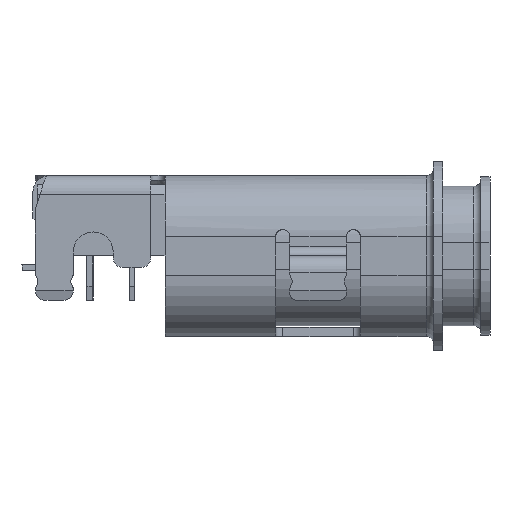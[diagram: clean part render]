
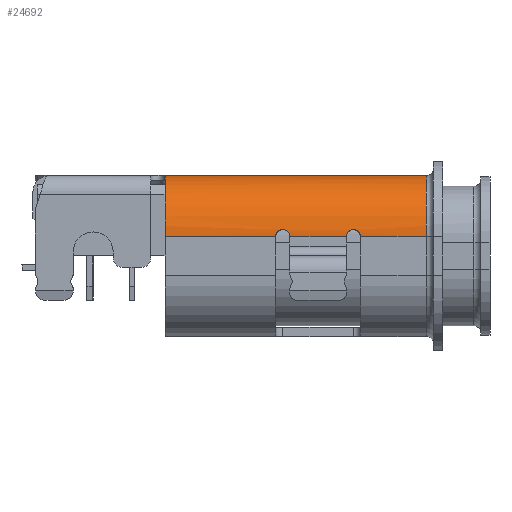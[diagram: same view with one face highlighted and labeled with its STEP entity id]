
A CAD part, left-side view. The second image highlights one B-rep face of the part: STEP entity #24692.
In plain terms, the highlighted cylindrical face has radius 1.3 mm (diameter 2.6 mm), a partial arc.
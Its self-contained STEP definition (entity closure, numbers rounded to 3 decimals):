
#1952=CARTESIAN_POINT('',(-27.077,12.736,5.946));
#1953=DIRECTION('',(0.,-1.,0.));
#1954=DIRECTION('',(-0.533,0.,0.846));
#1955=AXIS2_PLACEMENT_3D('',#1952,#1953,#1954);
#2758=CARTESIAN_POINT('',(-27.077,12.736,5.946));
#2759=DIRECTION('',(0.,-1.,0.));
#2760=DIRECTION('',(0.,0.,1.));
#2761=AXIS2_PLACEMENT_3D('',#2758,#2759,#2760);
#2763=CARTESIAN_POINT('',(-27.077,12.736,5.946));
#2764=DIRECTION('',(0.,-1.,0.));
#2765=DIRECTION('',(-0.769,0.,0.639));
#2766=AXIS2_PLACEMENT_3D('',#2763,#2764,#2765);
#5734=CARTESIAN_POINT('',(-27.077,7.186,5.946));
#5735=DIRECTION('',(0.,-1.,0.));
#5736=DIRECTION('',(0.,0.,1.));
#5737=AXIS2_PLACEMENT_3D('',#5734,#5735,#5736);
#5749=DIRECTION('',(0.,-1.,0.));
#5750=VECTOR('',#5749,5.55);
#5751=CARTESIAN_POINT('',(-27.077,12.736,7.246));
#5752=LINE('',#5751,#5750);
#5753=DIRECTION('',(0.,1.,0.));
#5754=VECTOR('',#5753,1.4);
#5755=CARTESIAN_POINT('',(-28.377,7.186,5.946));
#5756=LINE('',#5755,#5754);
#5757=CARTESIAN_POINT('',(-28.377,8.586,5.946));
#5758=CARTESIAN_POINT('',(-28.377,8.586,5.964));
#5759=CARTESIAN_POINT('',(-28.376,8.592,5.997));
#5760=CARTESIAN_POINT('',(-28.373,8.618,6.044));
#5761=CARTESIAN_POINT('',(-28.37,8.659,6.079));
#5762=CARTESIAN_POINT('',(-28.368,8.709,6.097));
#5763=CARTESIAN_POINT('',(-28.368,8.763,6.097));
#5764=CARTESIAN_POINT('',(-28.37,8.813,6.079));
#5765=CARTESIAN_POINT('',(-28.373,8.854,6.044));
#5766=CARTESIAN_POINT('',(-28.376,8.88,5.997));
#5767=CARTESIAN_POINT('',(-28.377,8.886,5.964));
#5768=CARTESIAN_POINT('',(-28.377,8.886,5.946));
#5770=DIRECTION('',(0.,1.,0.));
#5771=VECTOR('',#5770,1.2);
#5772=CARTESIAN_POINT('',(-28.377,8.886,5.946));
#5773=LINE('',#5772,#5771);
#5774=CARTESIAN_POINT('',(-28.377,10.086,5.946));
#5775=CARTESIAN_POINT('',(-28.377,10.086,5.964));
#5776=CARTESIAN_POINT('',(-28.376,10.092,5.997));
#5777=CARTESIAN_POINT('',(-28.373,10.118,6.044));
#5778=CARTESIAN_POINT('',(-28.37,10.159,6.079));
#5779=CARTESIAN_POINT('',(-28.368,10.209,6.097));
#5780=CARTESIAN_POINT('',(-28.368,10.263,6.097));
#5781=CARTESIAN_POINT('',(-28.37,10.313,6.079));
#5782=CARTESIAN_POINT('',(-28.373,10.354,6.044));
#5783=CARTESIAN_POINT('',(-28.376,10.38,5.997));
#5784=CARTESIAN_POINT('',(-28.377,10.386,5.964));
#5785=CARTESIAN_POINT('',(-28.377,10.386,5.946));
#5787=DIRECTION('',(0.,1.,0.));
#5788=VECTOR('',#5787,2.35);
#5789=CARTESIAN_POINT('',(-28.377,10.386,5.946));
#5790=LINE('',#5789,#5788);
#15685=CARTESIAN_POINT('',(-28.377,12.736,
5.946));
#15686=VERTEX_POINT('',#15685);
#15687=CARTESIAN_POINT('',(-27.077,12.736,
7.246));
#15688=VERTEX_POINT('',#15687);
#16050=CARTESIAN_POINT('',(-28.377,8.586,
5.946));
#16051=VERTEX_POINT('',#16050);
#16052=CARTESIAN_POINT('',(-28.377,8.886,
5.946));
#16053=CARTESIAN_POINT('',(-28.377,10.086,
5.946));
#16054=VERTEX_POINT('',#16052);
#16055=VERTEX_POINT('',#16053);
#16056=VERTEX_POINT('',#5785);
#16827=CARTESIAN_POINT('',(-27.77,12.736,
7.046));
#16828=CARTESIAN_POINT('',(-28.077,12.736,
6.777));
#16829=VERTEX_POINT('',#16827);
#16830=VERTEX_POINT('',#16828);
#16937=CARTESIAN_POINT('',(-27.077,7.186,
7.246));
#16939=VERTEX_POINT('',#16937);
#16947=CARTESIAN_POINT('',(-28.377,7.186,
5.946));
#16948=VERTEX_POINT('',#16947);
#24670=CARTESIAN_POINT('',(-27.077,12.847,
5.946));
#24671=DIRECTION('',(0.,-1.,0.));
#24672=DIRECTION('',(1.,0.,0.));
#24673=AXIS2_PLACEMENT_3D('',#24670,#24671,#24672);
#24674=CYLINDRICAL_SURFACE('',#24673,1.3);
#24675=ORIENTED_EDGE('',*,*,#19605,.F.);
#24676=ORIENTED_EDGE('',*,*,#20752,.F.);
#24677=ORIENTED_EDGE('',*,*,#22407,.T.);
#24678=ORIENTED_EDGE('',*,*,#24661,.T.);
#24680=ORIENTED_EDGE('',*,*,#24679,.T.);
#24682=ORIENTED_EDGE('',*,*,#24681,.T.);
#24684=ORIENTED_EDGE('',*,*,#24683,.T.);
#24686=ORIENTED_EDGE('',*,*,#24685,.T.);
#24688=ORIENTED_EDGE('',*,*,#24687,.T.);
#24689=ORIENTED_EDGE('',*,*,#20764,.F.);
#24690=EDGE_LOOP('',(#24675,#24676,#24677,#24678,#24680,#24682,#24684,#24686,
#24688,#24689));
#24691=FACE_OUTER_BOUND('',#24690,.F.);
#24692=ADVANCED_FACE('',(#24691),#24674,.T.);
#1956=CIRCLE('',#1955,1.3);
#2762=CIRCLE('',#2761,1.3);
#2767=CIRCLE('',#2766,1.3);
#5738=CIRCLE('',#5737,1.3);
#5769=B_SPLINE_CURVE_WITH_KNOTS('',3,(#5757,#5758,#5759,#5760,#5761,#5762,#5763,
#5764,#5765,#5766,#5767,#5768),.UNSPECIFIED.,.F.,.F.,(4,1,1,1,1,1,1,1,1,4),
(0.,0.111,0.222,0.333,0.444,
0.556,0.667,0.778,0.889,1.),
.UNSPECIFIED.);
#5786=B_SPLINE_CURVE_WITH_KNOTS('',3,(#5774,#5775,#5776,#5777,#5778,#5779,#5780,
#5781,#5782,#5783,#5784,#5785),.UNSPECIFIED.,.F.,.F.,(4,1,1,1,1,1,1,1,1,4),
(0.,0.111,0.222,0.333,0.444,
0.556,0.667,0.778,0.889,1.),
.UNSPECIFIED.);
#19605=EDGE_CURVE('',#16829,#16830,#1956,.T.);
#20752=EDGE_CURVE('',#15688,#16829,#2762,.T.);
#20764=EDGE_CURVE('',#16830,#15686,#2767,.T.);
#22407=EDGE_CURVE('',#15688,#16939,#5752,.T.);
#24661=EDGE_CURVE('',#16939,#16948,#5738,.T.);
#24679=EDGE_CURVE('',#16948,#16051,#5756,.T.);
#24681=EDGE_CURVE('',#16051,#16054,#5769,.T.);
#24683=EDGE_CURVE('',#16054,#16055,#5773,.T.);
#24685=EDGE_CURVE('',#16055,#16056,#5786,.T.);
#24687=EDGE_CURVE('',#16056,#15686,#5790,.T.);
